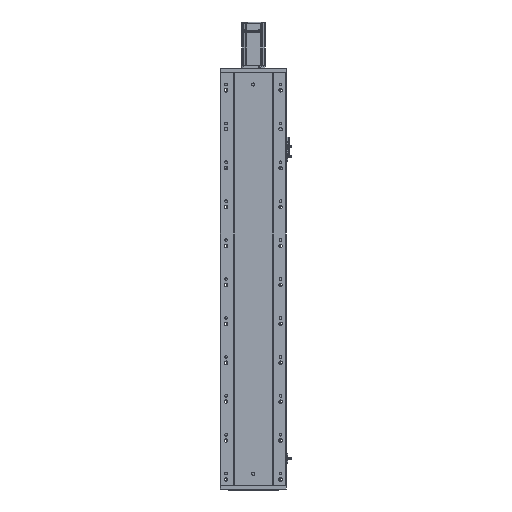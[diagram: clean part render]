
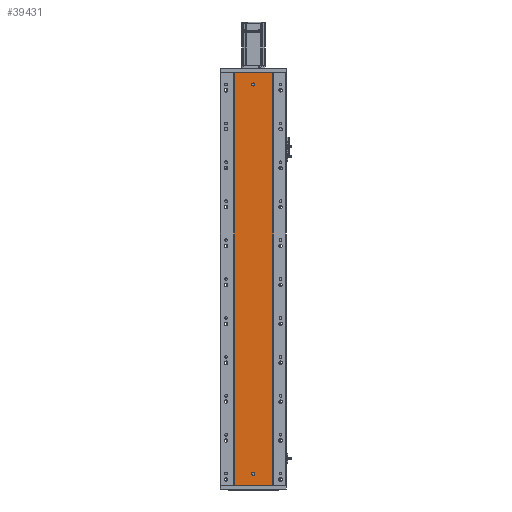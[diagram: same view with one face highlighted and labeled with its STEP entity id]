
A CAD part, front view. The second image highlights one B-rep face of the part: STEP entity #39431.
In plain terms, the highlighted planar face has unit normal (0, -1, 0).
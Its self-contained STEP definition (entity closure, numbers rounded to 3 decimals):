
#3086 = PLANE ( 'NONE',  #4139 ) ;
#3106 = DIRECTION ( 'NONE',  ( 0., 1., 0. ) ) ;
#3117 = DIRECTION ( 'NONE',  ( 0., 0., 1. ) ) ;
#3137 = CARTESIAN_POINT ( 'NONE',  ( 0., 79.476, 1060. ) ) ;
#4139 = AXIS2_PLACEMENT_3D ( 'NONE', #3137, #3106, #3117 ) ;
#12194 = CARTESIAN_POINT ( 'NONE',  ( 136.47, 79.476, 34. ) ) ;
#12197 = CARTESIAN_POINT ( 'NONE',  ( 136.47, 79.476, 26. ) ) ;
#12199 = CARTESIAN_POINT ( 'NONE',  ( 136.47, 79.476, 1026. ) ) ;
#12216 = CARTESIAN_POINT ( 'NONE',  ( 136.47, 79.476, 1034. ) ) ;
#13102 = CARTESIAN_POINT ( 'NONE',  ( 185.97, 79.476, 1060. ) ) ;
#13131 = CARTESIAN_POINT ( 'NONE',  ( 86.97, 79.476, 1060. ) ) ;
#13132 = CARTESIAN_POINT ( 'NONE',  ( 185.97, 79.476, 0. ) ) ;
#13144 = CARTESIAN_POINT ( 'NONE',  ( 86.97, 79.476, 0. ) ) ;
#19808 = VERTEX_POINT ( 'NONE', #12194 ) ;
#19837 = VERTEX_POINT ( 'NONE', #12197 ) ;
#19861 = VERTEX_POINT ( 'NONE', #12199 ) ;
#19868 = VERTEX_POINT ( 'NONE', #12216 ) ;
#20766 = VERTEX_POINT ( 'NONE', #13102 ) ;
#20778 = VERTEX_POINT ( 'NONE', #13132 ) ;
#20785 = VERTEX_POINT ( 'NONE', #13131 ) ;
#20814 = VERTEX_POINT ( 'NONE', #13144 ) ;
#26822 = EDGE_CURVE ( 'NONE', #20766, #20778, #40698, .T. ) ;
#26869 = EDGE_CURVE ( 'NONE', #20785, #20814, #40686, .T. ) ;
#26871 = EDGE_CURVE ( 'NONE', #20785, #20766, #47386, .T. ) ;
#26884 = EDGE_CURVE ( 'NONE', #19837, #19808, #47382, .T. ) ;
#26993 = EDGE_CURVE ( 'NONE', #20814, #20778, #47443, .T. ) ;
#27038 = EDGE_CURVE ( 'NONE', #19861, #19868, #47484, .T. ) ;
#31706 = ORIENTED_EDGE ( 'NONE', *, *, #27038, .F. ) ;
#31783 = ORIENTED_EDGE ( 'NONE', *, *, #26822, .F. ) ;
#31785 = ORIENTED_EDGE ( 'NONE', *, *, #26871, .F. ) ;
#31791 = ORIENTED_EDGE ( 'NONE', *, *, #26884, .F. ) ;
#31792 = ORIENTED_EDGE ( 'NONE', *, *, #26993, .T. ) ;
#31796 = ORIENTED_EDGE ( 'NONE', *, *, #26869, .T. ) ;
#31814 = ORIENTED_EDGE ( 'NONE', *, *, #32299, .F. ) ;
#31831 = ORIENTED_EDGE ( 'NONE', *, *, #32297, .F. ) ;
#32297 = EDGE_CURVE ( 'NONE', #19808, #19837, #46496, .T. ) ;
#32299 = EDGE_CURVE ( 'NONE', #19868, #19861, #46504, .T. ) ;
#39431 = ADVANCED_FACE ( 'NONE', ( #45006, #45092, #45094 ), #3086, .F. ) ;
#39547 = EDGE_LOOP ( 'NONE', ( #31706, #31814 ) ) ;
#39568 = EDGE_LOOP ( 'NONE', ( #31791, #31831 ) ) ;
#39579 = EDGE_LOOP ( 'NONE', ( #31792, #31783, #31785, #31796 ) ) ;
#40686 = B_SPLINE_CURVE_WITH_KNOTS ( 'NONE', 3,
 ( #42574, #42563, #42556, #42565 ),
 .UNSPECIFIED., .F., .F.,
 ( 4, 4 ),
 ( 0., 1. ),
 .UNSPECIFIED. ) ;
#40698 = B_SPLINE_CURVE_WITH_KNOTS ( 'NONE', 3,
 ( #42474, #42462, #42501, #42509 ),
 .UNSPECIFIED., .F., .F.,
 ( 4, 4 ),
 ( 0., 1. ),
 .UNSPECIFIED. ) ;
#42462 = CARTESIAN_POINT ( 'NONE',  ( 185.97, 79.476, 706.667 ) ) ;
#42474 = CARTESIAN_POINT ( 'NONE',  ( 185.97, 79.476, 1060. ) ) ;
#42501 = CARTESIAN_POINT ( 'NONE',  ( 185.97, 79.476, 353.333 ) ) ;
#42509 = CARTESIAN_POINT ( 'NONE',  ( 185.97, 79.476, 0. ) ) ;
#42539 = CARTESIAN_POINT ( 'NONE',  ( 0., 79.476, 1060. ) ) ;
#42549 = DIRECTION ( 'NONE',  ( 1., 0., 0. ) ) ;
#42550 = CARTESIAN_POINT ( 'NONE',  ( 136.47, 79.476, 30. ) ) ;
#42553 = DIRECTION ( 'NONE',  ( 0., 0., -1. ) ) ;
#42556 = CARTESIAN_POINT ( 'NONE',  ( 86.97, 79.476, 353.333 ) ) ;
#42560 = DIRECTION ( 'NONE',  ( 0., -1., 0. ) ) ;
#42563 = CARTESIAN_POINT ( 'NONE',  ( 86.97, 79.476, 706.667 ) ) ;
#42565 = CARTESIAN_POINT ( 'NONE',  ( 86.97, 79.476, 0. ) ) ;
#42574 = CARTESIAN_POINT ( 'NONE',  ( 86.97, 79.476, 1060. ) ) ;
#42671 = CARTESIAN_POINT ( 'NONE',  ( 0., 79.476, 0. ) ) ;
#42693 = DIRECTION ( 'NONE',  ( 1., 0., 0. ) ) ;
#42701 = CARTESIAN_POINT ( 'NONE',  ( 136.47, 79.476, 1030. ) ) ;
#42703 = DIRECTION ( 'NONE',  ( 0., 0., -1. ) ) ;
#42713 = DIRECTION ( 'NONE',  ( 0., -1., 0. ) ) ;
#44647 = AXIS2_PLACEMENT_3D ( 'NONE', #42550, #42560, #42553 ) ;
#44758 = AXIS2_PLACEMENT_3D ( 'NONE', #42701, #42713, #42703 ) ;
#44799 = AXIS2_PLACEMENT_3D ( 'NONE', #69085, #69086, #69087 ) ;
#44959 = AXIS2_PLACEMENT_3D ( 'NONE', #69140, #69129, #69148 ) ;
#45006 = FACE_BOUND ( 'NONE', #39547, .T. ) ;
#45092 = FACE_BOUND ( 'NONE', #39568, .T. ) ;
#45094 = FACE_OUTER_BOUND ( 'NONE', #39579, .T. ) ;
#46496 = CIRCLE ( 'NONE', #44799, 4. ) ;
#46504 = CIRCLE ( 'NONE', #44959, 4. ) ;
#47382 = CIRCLE ( 'NONE', #44647, 4. ) ;
#47386 = LINE ( 'NONE', #42539, #47390 ) ;
#47390 = VECTOR ( 'NONE', #42549, 1000. ) ;
#47443 = LINE ( 'NONE', #42671, #47444 ) ;
#47444 = VECTOR ( 'NONE', #42693, 1000. ) ;
#47484 = CIRCLE ( 'NONE', #44758, 4. ) ;
#69085 = CARTESIAN_POINT ( 'NONE',  ( 136.47, 79.476, 30. ) ) ;
#69086 = DIRECTION ( 'NONE',  ( 0., -1., 0. ) ) ;
#69087 = DIRECTION ( 'NONE',  ( 0., 0., -1. ) ) ;
#69129 = DIRECTION ( 'NONE',  ( 0., -1., 0. ) ) ;
#69140 = CARTESIAN_POINT ( 'NONE',  ( 136.47, 79.476, 1030. ) ) ;
#69148 = DIRECTION ( 'NONE',  ( 0., 0., -1. ) ) ;
